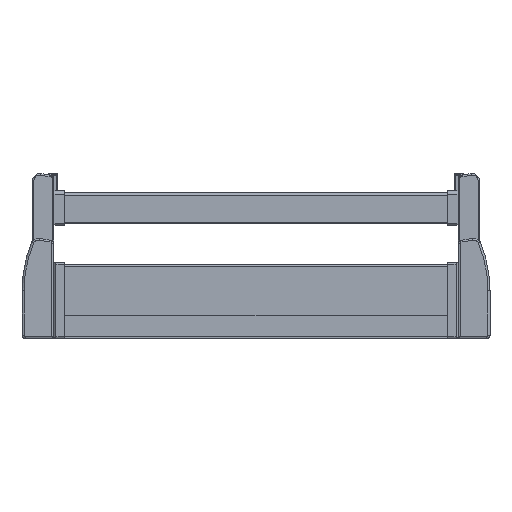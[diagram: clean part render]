
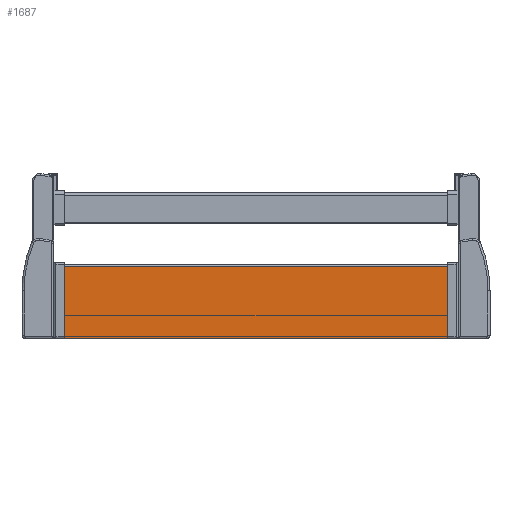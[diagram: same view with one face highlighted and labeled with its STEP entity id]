
A CAD part, top view. The second image highlights one B-rep face of the part: STEP entity #1687.
In plain terms, the highlighted planar face has unit normal (0, 0, 1).
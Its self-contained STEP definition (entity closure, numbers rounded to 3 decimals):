
#1245 = EDGE_CURVE ( 'NONE', #1299, #1246, #4283, .T. ) ;
#1246 = VERTEX_POINT ( 'NONE', #4279 ) ;
#1298 = EDGE_CURVE ( 'NONE', #1299, #1432, #4426, .T. ) ;
#1299 = VERTEX_POINT ( 'NONE', #4422 ) ;
#1432 = VERTEX_POINT ( 'NONE', #4724 ) ;
#1444 = EDGE_CURVE ( 'NONE', #1432, #1670, #4633, .T. ) ;
#1549 = EDGE_CURVE ( 'NONE', #1246, #1670, #5042, .T. ) ;
#1564 = ORIENTED_EDGE ( 'NONE', *, *, #1549, .F. ) ;
#1670 = VERTEX_POINT ( 'NONE', #5710 ) ;
#1687 = ADVANCED_FACE ( 'NONE', ( #5952 ), #5944, .F. ) ;
#1762 = ORIENTED_EDGE ( 'NONE', *, *, #1298, .T. ) ;
#1763 = ORIENTED_EDGE ( 'NONE', *, *, #1444, .T. ) ;
#1764 = EDGE_LOOP ( 'NONE', ( #1765, #1762, #1763, #1564 ) ) ;
#1765 = ORIENTED_EDGE ( 'NONE', *, *, #1245, .F. ) ;
#4279 = CARTESIAN_POINT ( 'NONE',  ( -185.8, -92.5, 1.4 ) ) ;
#4280 = DIRECTION ( 'NONE',  ( -1., 0., 0. ) ) ;
#4281 = VECTOR ( 'NONE', #4280, 1000. ) ;
#4282 = CARTESIAN_POINT ( 'NONE',  ( 259.556, -92.5, 1.4 ) ) ;
#4283 = LINE ( 'NONE', #4282, #4281 ) ;
#4422 = CARTESIAN_POINT ( 'NONE',  ( 185.8, -92.5, 1.4 ) ) ;
#4423 = DIRECTION ( 'NONE',  ( 0., 1., 0. ) ) ;
#4424 = VECTOR ( 'NONE', #4423, 1000. ) ;
#4425 = CARTESIAN_POINT ( 'NONE',  ( 185.8, -92.5, 1.4 ) ) ;
#4426 = LINE ( 'NONE', #4425, #4424 ) ;
#4623 = DIRECTION ( 'NONE',  ( -1., 0., 0. ) ) ;
#4624 = VECTOR ( 'NONE', #4623, 1000. ) ;
#4625 = CARTESIAN_POINT ( 'NONE',  ( 259.556, -23., 1.4 ) ) ;
#4633 = LINE ( 'NONE', #4625, #4624 ) ;
#4724 = CARTESIAN_POINT ( 'NONE',  ( 185.8, -23., 1.4 ) ) ;
#5036 = DIRECTION ( 'NONE',  ( 0., 1., 0. ) ) ;
#5038 = VECTOR ( 'NONE', #5036, 1000. ) ;
#5040 = CARTESIAN_POINT ( 'NONE',  ( -185.8, -92.5, 1.4 ) ) ;
#5042 = LINE ( 'NONE', #5040, #5038 ) ;
#5598 = DIRECTION ( 'NONE',  ( 0., 1., 0. ) ) ;
#5599 = DIRECTION ( 'NONE',  ( 0., 0., -1. ) ) ;
#5600 = CARTESIAN_POINT ( 'NONE',  ( 259.556, -92.5, 1.4 ) ) ;
#5601 = AXIS2_PLACEMENT_3D ( 'NONE', #5600, #5599, #5598 ) ;
#5710 = CARTESIAN_POINT ( 'NONE',  ( -185.8, -23., 1.4 ) ) ;
#5944 = PLANE ( 'NONE',  #5601 ) ;
#5952 = FACE_OUTER_BOUND ( 'NONE', #1764, .T. ) ;
